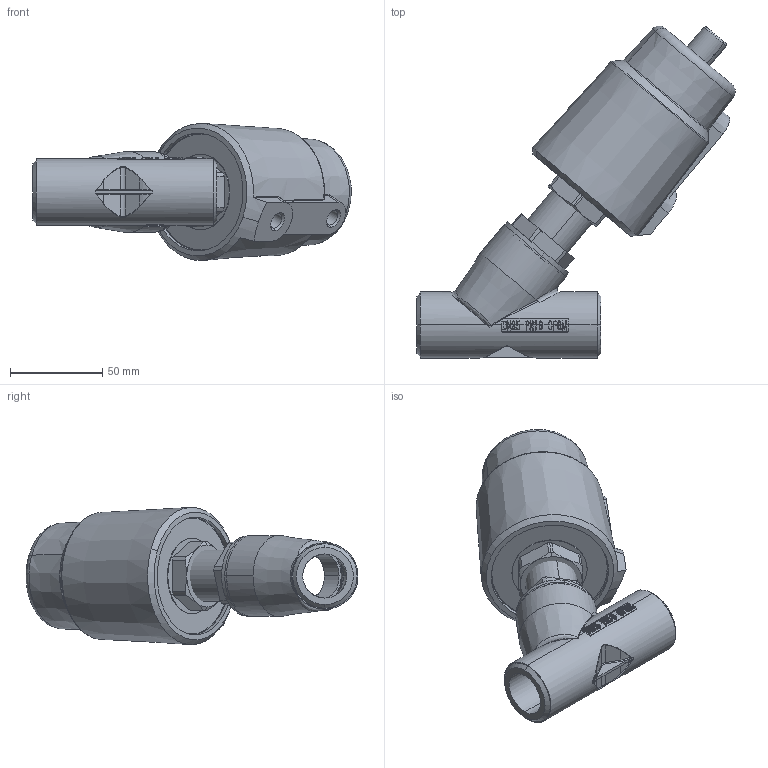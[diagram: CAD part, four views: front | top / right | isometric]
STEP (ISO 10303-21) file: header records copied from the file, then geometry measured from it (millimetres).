
FILE_DESCRIPTION (( 'STEP AP203' ), '1' );
FILE_NAME ('JF10063125.STEP', '2019-03-21T04:40:28', ( 'User' ), ( 'china' ), 'SwSTEP 2.0', 'SolidWorks 2017', '' );
FILE_SCHEMA (( 'CONFIG_CONTROL_DESIGN' ));
Length unit declared in the file: millimetre
Products named in the file (11): 6325002蟀諉; 630002傷裔; EJF502501H00概极; 63詰芠; 錨璃弝敦; JF10063125
Assembly tree (5 placements, depth 2):
  6325002蟀諉
  630002傷裔
  63詰芠
  錨璃弝敦
  JF10063125
    EJF502501H00概极
    6325002蟀諉
    630002傷裔
    63詰芠
    錨璃弝敦
Bounding box: 172.96 x 180.31 x 74.55 mm (x, y, z)
Volume: 219072.4 mm3; surface area: 102936.7 mm2
Topology: 5 solids, 5 shells, 651 faces, 1771 edges, 1151 vertices
Faces by surface type: bspline 294, cylinder 154, plane 118, cone 53, torus 32
Entity records: 46338 total; most frequent: CARTESIAN_POINT 31622, ORIENTED_EDGE 3528, DIRECTION 1842, EDGE_CURVE 1764, VERTEX_POINT 1151, B_SPLINE_CURVE_WITH_KNOTS 1002, AXIS2_PLACEMENT_3D 761, EDGE_LOOP 695
